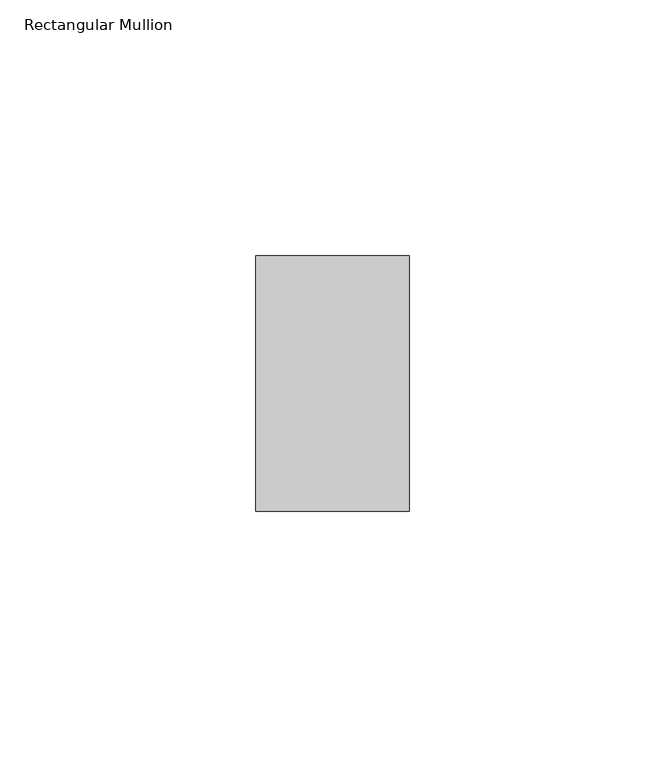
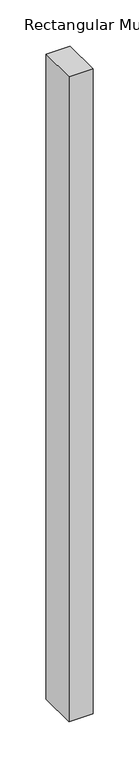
"""IFC4 building model written with IfcOpenShell, lengths in millimetres: member geometry, Rectangular Mullion : ARQ_TV_MULL_50x30mm."""

from ifc_helpers import new_model, si_unit, frame, origin, place, context, project, spatial, polyline, outline, extrude, source, transform, mapped, element, save


def rectangular_mullion_6f6a8ff1(model_context):
    return source(origin(), model_context, "Body", "SweptSolid", [
        extrude(outline(polyline([(0.0, 25.0), (0.0, -25.0), (-30.0, -25.0), (-30.0, 25.0), (0.0, 25.0)])), frame((0.0, 0.0, -854.0436542), z_axis=(0.0, 0.0, 1.0), x_axis=(1.0, 0.0, 0.0)), (0.0, 0.0, 1.0), 854.0436542),
    ])


if __name__ == "__main__":
    model = new_model("IFC4")
    model_context = context("Model", 3, world=origin())
    ifc_project = project(units=[si_unit("LENGTHUNIT", "METRE", prefix="MILLI")], contexts=[model_context])
    site = spatial("IfcSite", under=ifc_project)
    building = spatial("IfcBuilding", under=site)
    placement = place(None, origin())
    rectangular_mullion_shape = rectangular_mullion_6f6a8ff1(model_context)
    element("IfcMember", 1, ObjectType="Rectangular Mullion : ARQ_TV_MULL_50x30mm", at=placement, inside=building, context=model_context, shape_type="MappedRepresentation", body=[
        mapped(rectangular_mullion_shape, transform((0.0, 0.0, 0.0), x_axis=(1.0, 0.0, 0.0), y_axis=(0.0, 1.0, 0.0), z_axis=(0.0, 0.0, 1.0))),
    ])
    save(model, "model.ifc")
